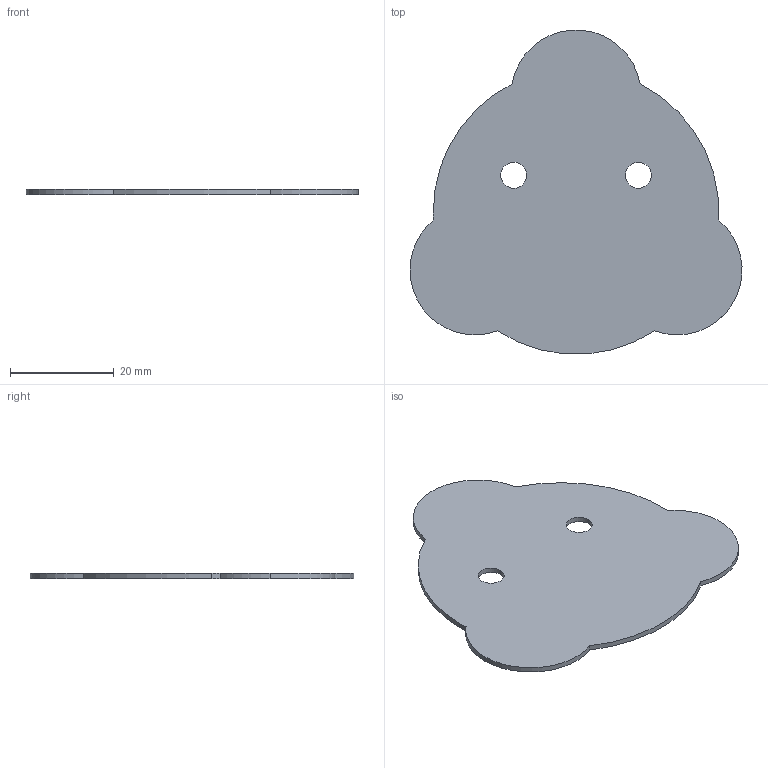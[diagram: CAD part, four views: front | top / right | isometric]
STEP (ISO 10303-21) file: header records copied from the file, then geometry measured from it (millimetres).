
FILE_DESCRIPTION (( 'STEP AP214' ), '1' );
FILE_NAME ('侲膹樥罻 膫闀膱.STEP', '2021-11-10T11:29:23', ( 'j03075@gmail.com' ), ( '' ), 'SwSTEP 2.0', 'SolidWorks 2021', '' );
FILE_SCHEMA (( 'AUTOMOTIVE_DESIGN' ));
Length unit declared in the file: millimetre
Products named in the file (1): 侲膹樥罻 膫闀膱
Bounding box: 63.95 x 62.36 x 1 mm (x, y, z)
Volume: 2772 mm3; surface area: 5776.7 mm2
Topology: 1 solids, 1 shells, 14 faces, 36 edges, 24 vertices
Faces by surface type: cylinder 12, plane 2
Entity records: 497 total; most frequent: DIRECTION 90, CARTESIAN_POINT 75, ORIENTED_EDGE 72, AXIS2_PLACEMENT_3D 39, EDGE_CURVE 36, CIRCLE 24, VERTEX_POINT 24, EDGE_LOOP 18
